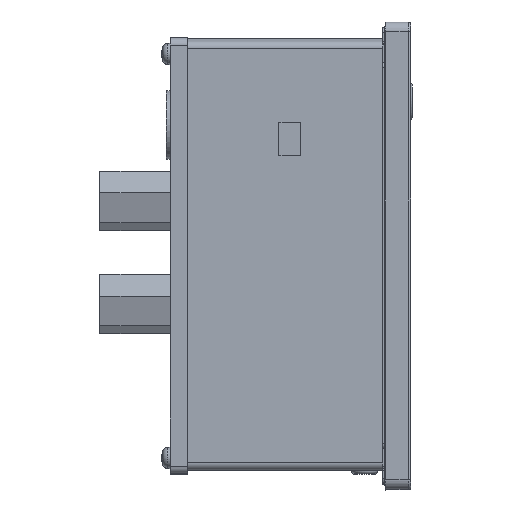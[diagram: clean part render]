
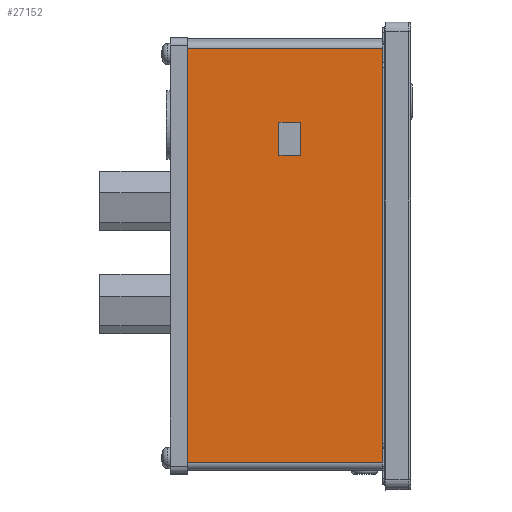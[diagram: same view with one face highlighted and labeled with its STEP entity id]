
A CAD part, top view. The second image highlights one B-rep face of the part: STEP entity #27152.
In plain terms, the highlighted planar face has unit normal (0, 0, 1).
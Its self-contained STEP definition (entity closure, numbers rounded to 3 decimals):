
#1648=FACE_BOUND('',#4210,.T.);
#2516=FACE_OUTER_BOUND('',#4209,.T.);
#4209=EDGE_LOOP('',(#21575,#21576,#21577,#21578,#21579,#21580));
#4210=EDGE_LOOP('',(#21581,#21582,#21583,#21584));
#6281=LINE('',#48230,#8668);
#6282=LINE('',#48236,#8669);
#6287=LINE('',#48247,#8674);
#6288=LINE('',#48251,#8675);
#6329=LINE('',#48347,#8716);
#6330=LINE('',#48349,#8717);
#6331=LINE('',#48352,#8718);
#6332=LINE('',#48354,#8719);
#6333=LINE('',#48356,#8720);
#6334=LINE('',#48357,#8721);
#8668=VECTOR('',#34925,2.9);
#8669=VECTOR('',#34930,2.9);
#8674=VECTOR('',#34939,40.1);
#8675=VECTOR('',#34944,85.2);
#8716=VECTOR('',#35041,40.1);
#8717=VECTOR('',#35044,79.4);
#8718=VECTOR('',#35045,6.8);
#8719=VECTOR('',#35046,4.5);
#8720=VECTOR('',#35047,6.8);
#8721=VECTOR('',#35048,4.5);
#12233=VERTEX_POINT('',#48224);
#12235=VERTEX_POINT('',#48228);
#12237=VERTEX_POINT('',#48233);
#12238=VERTEX_POINT('',#48235);
#12242=VERTEX_POINT('',#48246);
#12243=VERTEX_POINT('',#48250);
#12271=VERTEX_POINT('',#48350);
#12272=VERTEX_POINT('',#48351);
#12273=VERTEX_POINT('',#48353);
#12274=VERTEX_POINT('',#48355);
#15498=EDGE_CURVE('',#12235,#12233,#6281,.T.);
#15500=EDGE_CURVE('',#12237,#12238,#6282,.T.);
#15506=EDGE_CURVE('',#12233,#12242,#6287,.T.);
#15508=EDGE_CURVE('',#12243,#12242,#6288,.T.);
#15561=EDGE_CURVE('',#12237,#12243,#6329,.T.);
#15562=EDGE_CURVE('',#12235,#12238,#6330,.T.);
#15563=EDGE_CURVE('',#12271,#12272,#6331,.T.);
#15564=EDGE_CURVE('',#12272,#12273,#6332,.T.);
#15565=EDGE_CURVE('',#12273,#12274,#6333,.T.);
#15566=EDGE_CURVE('',#12274,#12271,#6334,.T.);
#21575=ORIENTED_EDGE('',*,*,#15506,.F.);
#21576=ORIENTED_EDGE('',*,*,#15498,.F.);
#21577=ORIENTED_EDGE('',*,*,#15562,.T.);
#21578=ORIENTED_EDGE('',*,*,#15500,.F.);
#21579=ORIENTED_EDGE('',*,*,#15561,.T.);
#21580=ORIENTED_EDGE('',*,*,#15508,.T.);
#21581=ORIENTED_EDGE('',*,*,#15563,.T.);
#21582=ORIENTED_EDGE('',*,*,#15564,.T.);
#21583=ORIENTED_EDGE('',*,*,#15565,.T.);
#21584=ORIENTED_EDGE('',*,*,#15566,.T.);
#25906=PLANE('',#29748);
#27152=ADVANCED_FACE('',(#2516,#1648),#25906,.T.);
#29748=AXIS2_PLACEMENT_3D('',#48348,#35042,#35043);
#34925=DIRECTION('',(0.,-1.,0.));
#34930=DIRECTION('',(0.,-1.,0.));
#34939=DIRECTION('',(-1.,0.,0.));
#34944=DIRECTION('',(0.,-1.,0.));
#35041=DIRECTION('',(-1.,0.,0.));
#35042=DIRECTION('center_axis',(0.,0.,1.));
#35043=DIRECTION('ref_axis',(0.,-1.,0.));
#35044=DIRECTION('',(0.,1.,0.));
#35045=DIRECTION('',(0.,-1.,0.));
#35046=DIRECTION('',(-1.,0.,0.));
#35047=DIRECTION('',(0.,1.,0.));
#35048=DIRECTION('',(1.,0.,0.));
#48224=CARTESIAN_POINT('',(40.1,-42.6,44.1));
#48228=CARTESIAN_POINT('',(40.1,-39.7,44.1));
#48230=CARTESIAN_POINT('',(40.1,-39.7,44.1));
#48233=CARTESIAN_POINT('',(40.1,42.6,44.1));
#48235=CARTESIAN_POINT('',(40.1,39.7,44.1));
#48236=CARTESIAN_POINT('',(40.1,42.6,44.1));
#48246=CARTESIAN_POINT('',(0.,-42.6,44.1));
#48247=CARTESIAN_POINT('',(40.1,-42.6,44.1));
#48250=CARTESIAN_POINT('',(0.,42.6,44.1));
#48251=CARTESIAN_POINT('',(0.,42.6,44.1));
#48347=CARTESIAN_POINT('',(40.1,42.6,44.1));
#48348=CARTESIAN_POINT('Origin',(0.,44.1,44.1));
#48349=CARTESIAN_POINT('',(40.1,-39.7,44.1));
#48350=CARTESIAN_POINT('',(23.3,27.4,44.1));
#48351=CARTESIAN_POINT('',(23.3,20.6,44.1));
#48352=CARTESIAN_POINT('',(23.3,27.4,44.1));
#48353=CARTESIAN_POINT('',(18.8,20.6,44.1));
#48354=CARTESIAN_POINT('',(23.3,20.6,44.1));
#48355=CARTESIAN_POINT('',(18.8,27.4,44.1));
#48356=CARTESIAN_POINT('',(18.8,20.6,44.1));
#48357=CARTESIAN_POINT('',(18.8,27.4,44.1));
